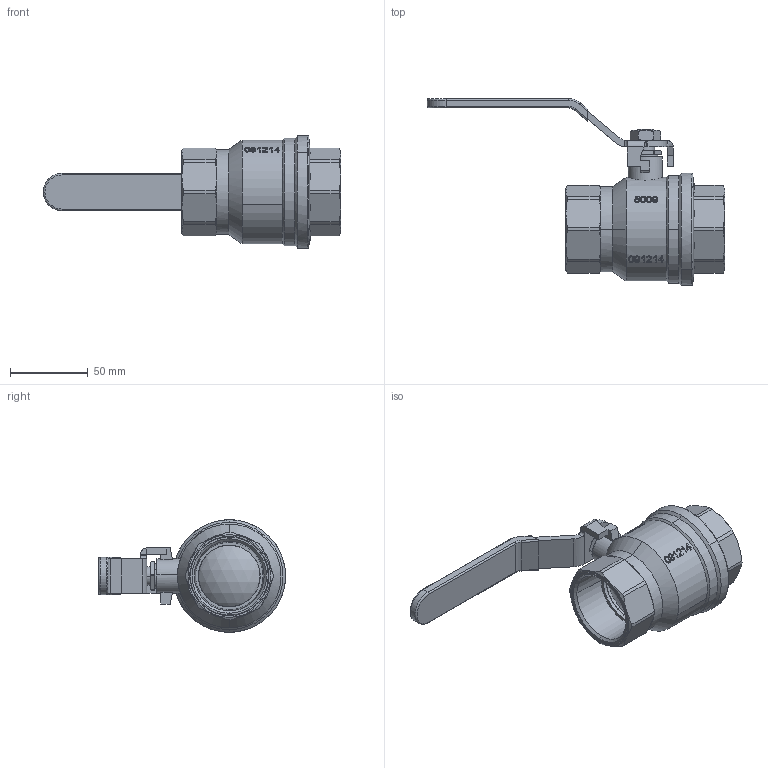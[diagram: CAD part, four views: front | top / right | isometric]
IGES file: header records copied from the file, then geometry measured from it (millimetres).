
Global section: file name: No Iges File Name specified; native system: AutoDesk Inventor R12.0; preprocessor: AutoDesk Inventor Iges Exporter R12.0; date: 20110127.163808; units: millimetre
Bounding box: 191 x 120.1 x 72.3 mm (x, y, z)
Volume: 302358.3 mm3; surface area: 91222.7 mm2
Topology: 7 solids, 7 shells, 1824 faces, 4878 edges, 3231 vertices
Faces by surface type: plane 898, bspline 651, revolution 89, cylinder 88, cone 68, torus 24, sphere 6
